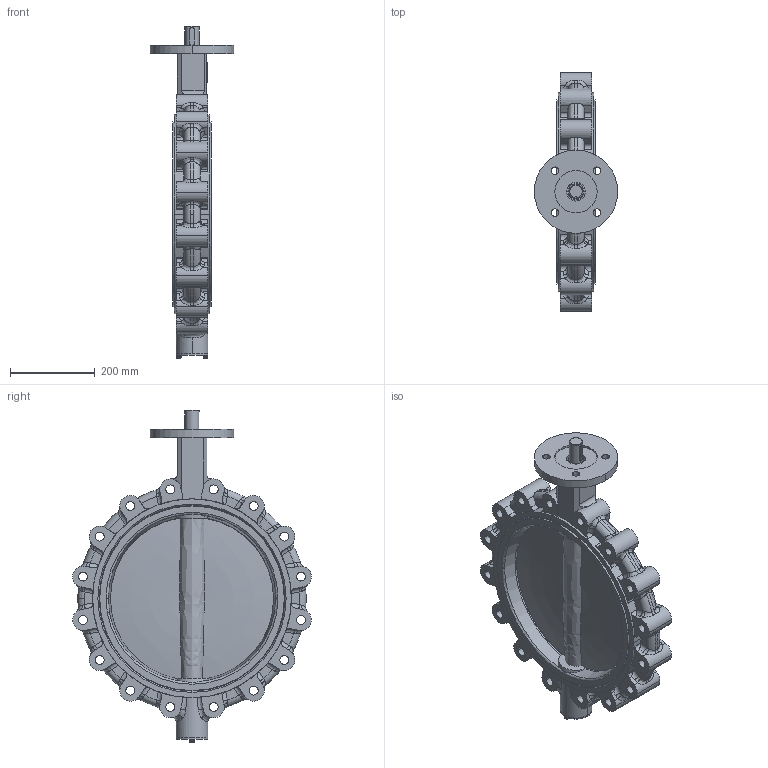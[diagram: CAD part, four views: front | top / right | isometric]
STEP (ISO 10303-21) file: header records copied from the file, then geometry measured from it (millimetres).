
FILE_DESCRIPTION(('Open CASCADE Model'),'2;1');
FILE_NAME('Open CASCADE Shape Model','2022-03-10T13:36:47',('Author'),( 'Open CASCADE'),'Open CASCADE STEP processor 7.3','Open CASCADE 7.3' ,'Unknown');
FILE_SCHEMA(('AUTOMOTIVE_DESIGN { 1 0 10303 214 1 1 1 1 }'));
Length unit declared in the file: millimetre
Products named in the file (13): Open CASCADE STEP translator 7.3 1; Open CASCADE STEP translator 7.3 1.1; Open CASCADE STEP translator 7.3 1.2; Open CASCADE STEP translator 7.3 1.3; Open CASCADE STEP translator 7.3 1.4; Open CASCADE STEP translator 7.3 1.5; Open CASCADE STEP translator 7.3 1.6; Open CASCADE STEP translator 7.3 1.7; Open CASCADE STEP translator 7.3 1.8; Open CASCADE STEP translator 7.3 1.9; Open CASCADE STEP translator 7.3 1.10; Open CASCADE STEP translator 7.3 1.11; Open CASCADE STEP translator 7.3 1.12
Assembly tree (12 placements, depth 2):
  Open CASCADE STEP translator 7.3 1
    Open CASCADE STEP translator 7.3 1.1
    Open CASCADE STEP translator 7.3 1.2
    Open CASCADE STEP translator 7.3 1.3
    Open CASCADE STEP translator 7.3 1.4
    Open CASCADE STEP translator 7.3 1.5
    Open CASCADE STEP translator 7.3 1.6
    Open CASCADE STEP translator 7.3 1.7
    Open CASCADE STEP translator 7.3 1.8
    Open CASCADE STEP translator 7.3 1.9
    Open CASCADE STEP translator 7.3 1.10
    Open CASCADE STEP translator 7.3 1.11
    Open CASCADE STEP translator 7.3 1.12
Bounding box: 197 x 564.91 x 785.12 mm (x, y, z)
Volume: 12098917.9 mm3; surface area: 1343605.9 mm2
Topology: 12 solids, 12 shells, 800 faces, 2063 edges, 1301 vertices
Faces by surface type: cylinder 340, plane 224, bspline 116, cone 58, torus 58, revolution 4
Entity records: 95190 total; most frequent: CARTESIAN_POINT 56707, DIRECTION 6447, ORIENTED_EDGE 4114, PCURVE 4114, DEFINITIONAL_REPRESENTATION 4114, LINE 3101, VECTOR 3101, EDGE_CURVE 2057
